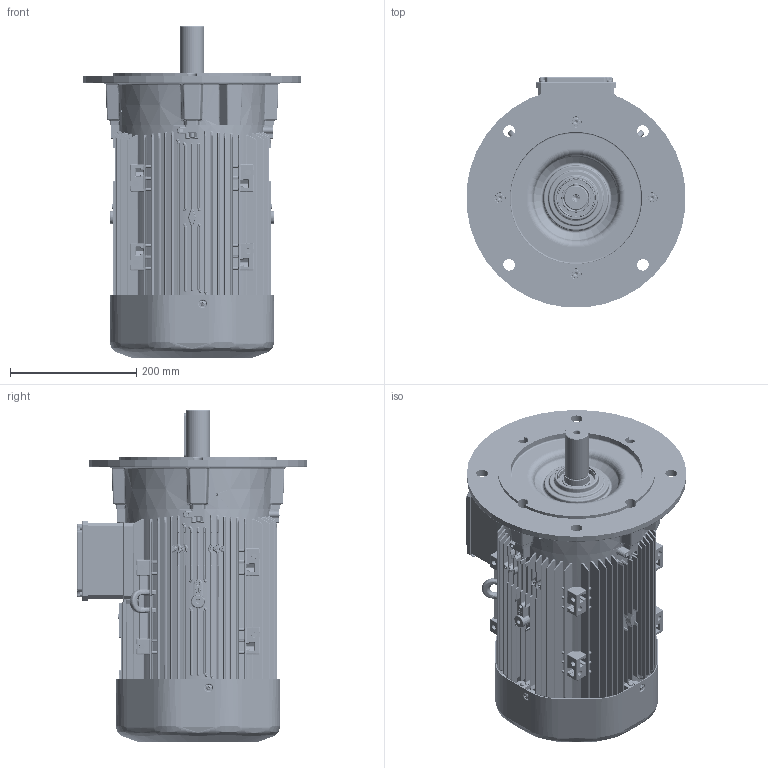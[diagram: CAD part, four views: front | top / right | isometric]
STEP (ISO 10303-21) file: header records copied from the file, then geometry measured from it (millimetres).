
FILE_DESCRIPTION(/* description */ (''),/* implementation_level */ '2;1');
FILE_NAME(/* name */ 'OUTLOOK VIEW QH132 FA B5 - BIGGER FF300 SPL.stp',/* time_stamp */ '2021-09-21T15:21:05+03:00',/* author */ (''),/* organization */ (''),/* preprocessor_version */ 'ST-DEVELOPER v16',/* originating_system */ 'SIEMENS PLM Software NX 11.0',/* authorisation */ '');
FILE_SCHEMA (('AUTOMOTIVE_DESIGN { 1 0 10303 214 3 1 1 1 }'));
Products named in the file (1): 260652D491E0rxlc
Bounding box: 347.17 x 366.29 x 526.5 mm (x, y, z)
Volume: 5110097 mm3; surface area: 1894745.9 mm2
Topology: 65 solids, 67 shells, 13738 faces, 32195 edges, 17827 vertices
Faces by surface type: cylinder 4495, bspline 3823, plane 2739, sphere 1302, torus 843, cone 502, extrusion 34
Full cylindrical faces by diameter (mm): 2.5 x2, 3.5 x2, 4 x4, 4.2 x8, 5.5 x8, 5.6 x1, 6.8 x1, 8 x20, 8.028 x3, 8.477 x2, 8.478 x1, 8.5 x8, 9 x4, 10.5 x1, 13 x8, 15 x2, 16.5 x4, 18.5 x4, 30.4 x2, 34.4 x1, 35 x1, 37.4 x1, 37.5 x1, 38 x1, 39.4 x2, 40 x5, 40.2 x1, 40.5 x1, 42.94 x1, 44 x2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
Entity records: 447803 total; most frequent: CARTESIAN_POINT 159035, ORIENTED_EDGE 61014, DIRECTION 58479, EDGE_CURVE 30507, AXIS2_PLACEMENT_3D 24034, VERTEX_POINT 17618, EDGE_LOOP 14969, ADVANCED_FACE 13737
